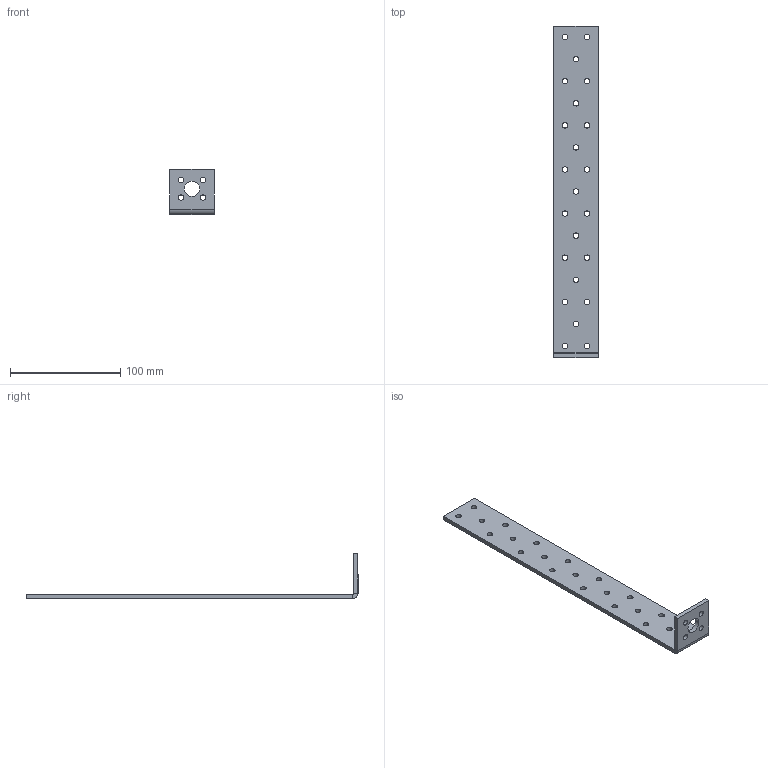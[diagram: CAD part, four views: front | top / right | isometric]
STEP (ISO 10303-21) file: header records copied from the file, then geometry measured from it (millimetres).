
FILE_DESCRIPTION (( 'STEP AP203' ), '1' );
FILE_NAME ('534.STEP', '2021-06-22T13:59:14', ( '' ), ( '' ), 'SwSTEP 2.0', 'SolidWorks 2013', '' );
FILE_SCHEMA (( 'CONFIG_CONTROL_DESIGN' ));
Length unit declared in the file: millimetre
Products named in the file (1): 534
Bounding box: 40 x 300.84 x 40.84 mm (x, y, z)
Volume: 51105.8 mm3; surface area: 30437.4 mm2
Topology: 1 solids, 1 shells, 70 faces, 196 edges, 128 vertices
Faces by surface type: cylinder 58, plane 12
Entity records: 2503 total; most frequent: DIRECTION 454, CARTESIAN_POINT 395, ORIENTED_EDGE 392, EDGE_CURVE 196, AXIS2_PLACEMENT_3D 187, VERTEX_POINT 128, EDGE_LOOP 126, CIRCLE 116
